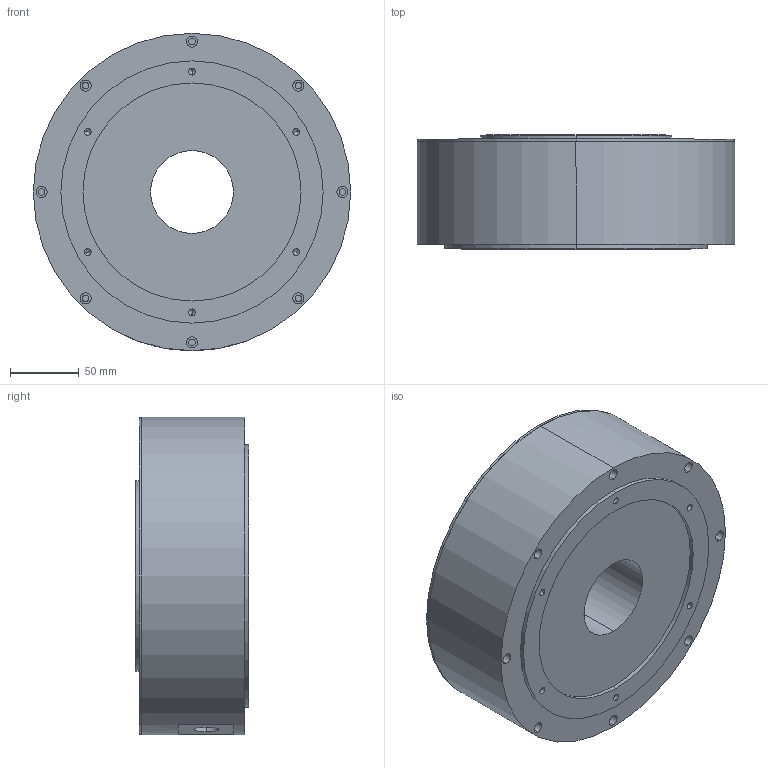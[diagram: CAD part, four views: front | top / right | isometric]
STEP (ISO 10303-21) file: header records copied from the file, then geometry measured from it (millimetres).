
FILE_DESCRIPTION((''),'2;1');
FILE_NAME('PM-DDD12D','2016-02-05T',('jb17719'),(''),'PRO/ENGINEER BY PARAMETRIC TECHNOLOGY CORPORATION, 2008070','PRO/ENGINEER BY PARAMETRIC TECHNOLOGY CORPORATION, 2008070','');
FILE_SCHEMA(('AUTOMOTIVE_DESIGN_CC2 { 1 2 10303 214 -1 1 5 2 }'));
Length unit declared in the file: millimetre
Products named in the file (1): PM-DDD12D
Bounding box: 230 x 82.5 x 230 mm (x, y, z)
Volume: 2969760.9 mm3; surface area: 201994.8 mm2
Topology: 2 solids, 2 shells, 247 faces, 550 edges, 342 vertices
Faces by surface type: cylinder 140, plane 53, cone 52, torus 2
Entity records: 7155 total; most frequent: DIRECTION 1340, CARTESIAN_POINT 1179, ORIENTED_EDGE 1052, AXIS2_PLACEMENT_3D 571, EDGE_CURVE 526, VERTEX_POINT 342, EDGE_LOOP 338, CIRCLE 324
